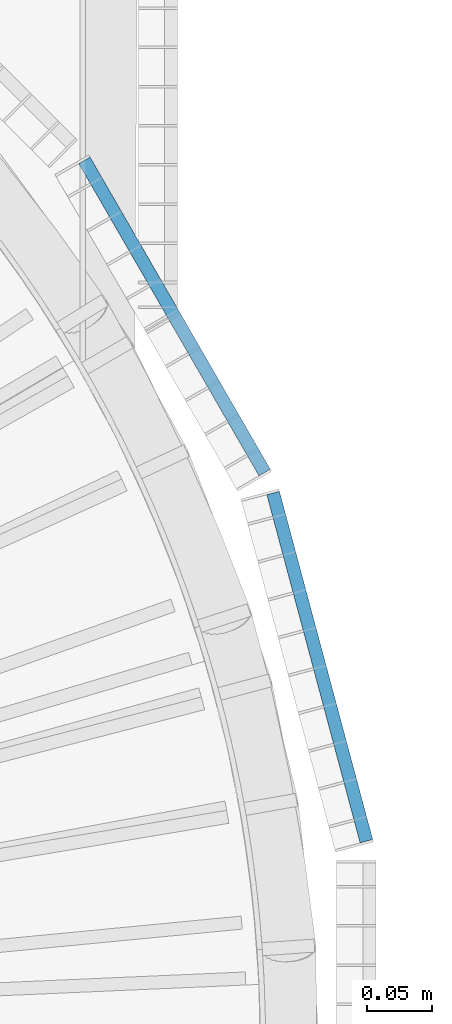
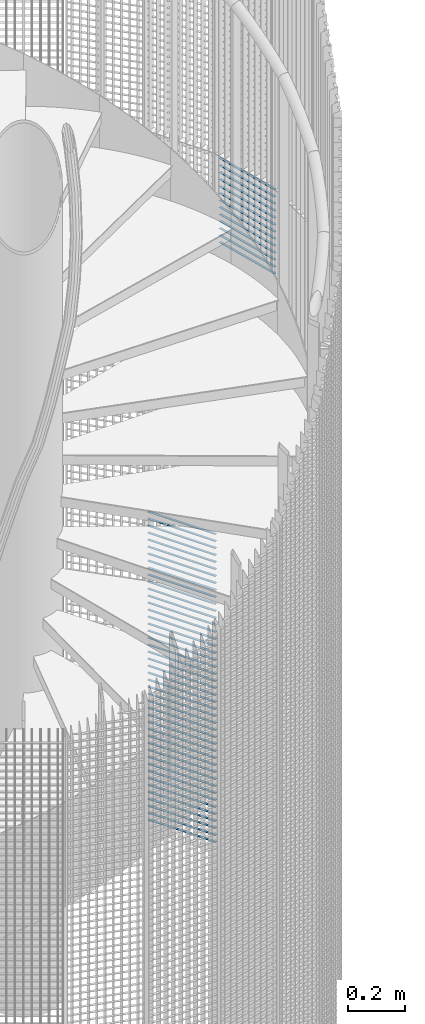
# One storey, part 310 of 1183: 58 beams, 2 elements without a shape of their own.
"""IFC2X3 building model written with IfcOpenShell, lengths in millimetres."""

from ifc_helpers import new_model, si_unit, frame, origin_with_axes, origin_2d_with_axis, place, context, subcontext, project, spatial, rectangle, extrude, material, type_object, element, aggregate, save


model = new_model("IFC2X3")

# Units and contexts
model_context = context("Model", 3, precision=1e-05, world=origin_with_axes())
body_context = subcontext(model_context, "Body", "Model", "MODEL_VIEW")
ifc_project = project(units=[si_unit("LENGTHUNIT", "METRE", prefix="MILLI"), si_unit("AREAUNIT", "SQUARE_METRE"), si_unit("VOLUMEUNIT", "CUBIC_METRE"), si_unit("MASSUNIT", "GRAM", prefix="KILO"), si_unit("TIMEUNIT", "SECOND"), si_unit("PLANEANGLEUNIT", "RADIAN"), si_unit("SOLIDANGLEUNIT", "STERADIAN"), si_unit("THERMODYNAMICTEMPERATUREUNIT", "DEGREE_CELSIUS"), si_unit("LUMINOUSINTENSITYUNIT", "LUMEN")], contexts=[model_context])

# Site, building, storey
site_placement = place(None, origin_with_axes())
site = spatial("IfcSite", under=ifc_project, at=site_placement, Name="Undefined", CompositionType="ELEMENT")
building_placement = place(site_placement, origin_with_axes())
building = spatial("IfcBuilding", under=site, at=building_placement, Name="Undefined", CompositionType="ELEMENT")
storey_placement = place(building_placement, origin_with_axes())
storey = spatial("IfcBuildingStorey", under=building, at=storey_placement, Name="Undefined", CompositionType="ELEMENT", Elevation=0.0)

# Assembly, beams
assembly_1_placement = place(storey_placement, origin_with_axes())
assembly_1 = element("IfcElementAssembly", 1, at=assembly_1_placement, inside=storey, Name="BORDURE", AssemblyPlace="NOTDEFINED", PredefinedType="NOTDEFINED")
ifc_material = material(Name="STEEL/S235JR")
beam_type = type_object("IfcBeamType", Name="PL2*10", PredefinedType="NOTDEFINED")
beam_1_placement = place(assembly_1_placement, frame((1033.29996828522, 437.231955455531, 1350.0), z_axis=(0.866025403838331, 0.499999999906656, 0.0), x_axis=(-0.49999999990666, 0.866025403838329, 0.0)))
beam_1 = element("IfcBeam", 2, at=beam_1_placement, type_object=beam_type, material=ifc_material, Name="ENTRETOISE", context=body_context, shape_type="SweptSolid", body=[
    extrude(rectangle(XDim=2.0, YDim=10.0, at=origin_2d_with_axis()), frame((275.999999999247, 9.09494701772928e-13, 1.53210777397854e-14), z_axis=(-1.0, 0.0, 0.0), x_axis=(0.0, -1.0, 0.0)), (0.0, 0.0, 1.0), 276.0),
])
beam_2_placement = place(assembly_1_placement, frame((1033.29996828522, 437.231955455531, 1320.0), z_axis=(0.866025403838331, 0.499999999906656, 0.0), x_axis=(-0.49999999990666, 0.866025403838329, 0.0)))
beam_2 = element("IfcBeam", 3, at=beam_2_placement, type_object=beam_type, material=ifc_material, Name="ENTRETOISE", context=body_context, shape_type="SweptSolid", body=[
    extrude(rectangle(XDim=2.0, YDim=10.0, at=origin_2d_with_axis()), frame((275.999999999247, 9.09494701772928e-13, 1.53210777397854e-14), z_axis=(-1.0, 0.0, 0.0), x_axis=(0.0, -1.0, 0.0)), (0.0, 0.0, 1.0), 276.0),
])
beam_3_placement = place(assembly_1_placement, frame((1033.29996828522, 437.231955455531, 1290.0), z_axis=(0.866025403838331, 0.499999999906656, 0.0), x_axis=(-0.49999999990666, 0.866025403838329, 0.0)))
beam_3 = element("IfcBeam", 4, at=beam_3_placement, type_object=beam_type, material=ifc_material, Name="ENTRETOISE", context=body_context, shape_type="SweptSolid", body=[
    extrude(rectangle(XDim=2.0, YDim=10.0, at=origin_2d_with_axis()), frame((275.999999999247, 9.09494701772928e-13, 1.53210777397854e-14), z_axis=(-1.0, 0.0, 0.0), x_axis=(0.0, -1.0, 0.0)), (0.0, 0.0, 1.0), 276.0),
])
beam_4_placement = place(assembly_1_placement, frame((1033.29996828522, 437.231955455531, 1260.0), z_axis=(0.866025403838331, 0.499999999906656, 0.0), x_axis=(-0.49999999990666, 0.866025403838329, 0.0)))
beam_4 = element("IfcBeam", 5, at=beam_4_placement, type_object=beam_type, material=ifc_material, Name="ENTRETOISE", context=body_context, shape_type="SweptSolid", body=[
    extrude(rectangle(XDim=2.0, YDim=10.0, at=origin_2d_with_axis()), frame((275.999999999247, 9.09494701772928e-13, 1.53210777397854e-14), z_axis=(-1.0, 0.0, 0.0), x_axis=(0.0, -1.0, 0.0)), (0.0, 0.0, 1.0), 276.0),
])
beam_5_placement = place(assembly_1_placement, frame((1033.29996828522, 437.231955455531, 1230.0), z_axis=(0.866025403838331, 0.499999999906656, 0.0), x_axis=(-0.49999999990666, 0.866025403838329, 0.0)))
beam_5 = element("IfcBeam", 6, at=beam_5_placement, type_object=beam_type, material=ifc_material, Name="ENTRETOISE", context=body_context, shape_type="SweptSolid", body=[
    extrude(rectangle(XDim=2.0, YDim=10.0, at=origin_2d_with_axis()), frame((275.999999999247, 9.09494701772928e-13, 1.53210777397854e-14), z_axis=(-1.0, 0.0, 0.0), x_axis=(0.0, -1.0, 0.0)), (0.0, 0.0, 1.0), 276.0),
])
beam_6_placement = place(assembly_1_placement, frame((1033.29996828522, 437.231955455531, 1200.0), z_axis=(0.866025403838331, 0.499999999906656, 0.0), x_axis=(-0.49999999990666, 0.866025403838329, 0.0)))
beam_6 = element("IfcBeam", 7, at=beam_6_placement, type_object=beam_type, material=ifc_material, Name="ENTRETOISE", context=body_context, shape_type="SweptSolid", body=[
    extrude(rectangle(XDim=2.0, YDim=10.0, at=origin_2d_with_axis()), frame((275.999999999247, 9.09494701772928e-13, 1.53210777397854e-14), z_axis=(-1.0, 0.0, 0.0), x_axis=(0.0, -1.0, 0.0)), (0.0, 0.0, 1.0), 276.0),
])
beam_7_placement = place(assembly_1_placement, frame((1033.29996828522, 437.231955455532, 1170.0), z_axis=(0.866025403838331, 0.499999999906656, 0.0), x_axis=(-0.49999999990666, 0.866025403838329, 0.0)))
beam_7 = element("IfcBeam", 8, at=beam_7_placement, type_object=beam_type, material=ifc_material, Name="ENTRETOISE", context=body_context, shape_type="SweptSolid", body=[
    extrude(rectangle(XDim=2.0, YDim=10.0, at=origin_2d_with_axis()), frame((275.999999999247, 9.09494701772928e-13, 1.53210777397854e-14), z_axis=(-1.0, 0.0, 0.0), x_axis=(0.0, -1.0, 0.0)), (0.0, 0.0, 1.0), 276.0),
])
beam_8_placement = place(assembly_1_placement, frame((1033.29996828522, 437.231955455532, 1140.0), z_axis=(0.866025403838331, 0.499999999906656, 0.0), x_axis=(-0.49999999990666, 0.866025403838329, 0.0)))
beam_8 = element("IfcBeam", 9, at=beam_8_placement, type_object=beam_type, material=ifc_material, Name="ENTRETOISE", context=body_context, shape_type="SweptSolid", body=[
    extrude(rectangle(XDim=2.0, YDim=10.0, at=origin_2d_with_axis()), frame((275.999999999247, 9.09494701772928e-13, 1.53210777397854e-14), z_axis=(-1.0, 0.0, 0.0), x_axis=(0.0, -1.0, 0.0)), (0.0, 0.0, 1.0), 276.0),
])
beam_9_placement = place(assembly_1_placement, frame((1033.29996828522, 437.231955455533, 719.999999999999), z_axis=(0.866025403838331, 0.499999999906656, 0.0), x_axis=(-0.49999999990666, 0.866025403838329, 0.0)))
beam_9 = element("IfcBeam", 10, at=beam_9_placement, type_object=beam_type, material=ifc_material, Name="ENTRETOISE", context=body_context, shape_type="SweptSolid", body=[
    extrude(rectangle(XDim=2.0, YDim=10.0, at=origin_2d_with_axis()), frame((275.999999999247, 9.09494701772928e-13, 1.53210777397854e-14), z_axis=(-1.0, 0.0, 0.0), x_axis=(0.0, -1.0, 0.0)), (0.0, 0.0, 1.0), 276.0),
])
beam_10_placement = place(assembly_1_placement, frame((1033.29996828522, 437.231955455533, 689.999999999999), z_axis=(0.866025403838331, 0.499999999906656, 0.0), x_axis=(-0.49999999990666, 0.866025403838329, 0.0)))
beam_10 = element("IfcBeam", 11, at=beam_10_placement, type_object=beam_type, material=ifc_material, Name="ENTRETOISE", context=body_context, shape_type="SweptSolid", body=[
    extrude(rectangle(XDim=2.0, YDim=10.0, at=origin_2d_with_axis()), frame((275.999999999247, 9.09494701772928e-13, 1.53210777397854e-14), z_axis=(-1.0, 0.0, 0.0), x_axis=(0.0, -1.0, 0.0)), (0.0, 0.0, 1.0), 276.0),
])
beam_11_placement = place(assembly_1_placement, frame((1033.29996828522, 437.231955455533, 749.999999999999), z_axis=(0.866025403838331, 0.499999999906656, 0.0), x_axis=(-0.49999999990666, 0.866025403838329, 0.0)))
beam_11 = element("IfcBeam", 12, at=beam_11_placement, type_object=beam_type, material=ifc_material, Name="ENTRETOISE", context=body_context, shape_type="SweptSolid", body=[
    extrude(rectangle(XDim=2.0, YDim=10.0, at=origin_2d_with_axis()), frame((275.999999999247, 9.09494701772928e-13, 1.53210777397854e-14), z_axis=(-1.0, 0.0, 0.0), x_axis=(0.0, -1.0, 0.0)), (0.0, 0.0, 1.0), 276.0),
])
beam_12_placement = place(assembly_1_placement, frame((1033.29996828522, 437.231955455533, 659.999999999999), z_axis=(0.866025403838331, 0.499999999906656, 0.0), x_axis=(-0.49999999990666, 0.866025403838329, 0.0)))
beam_12 = element("IfcBeam", 13, at=beam_12_placement, type_object=beam_type, material=ifc_material, Name="ENTRETOISE", context=body_context, shape_type="SweptSolid", body=[
    extrude(rectangle(XDim=2.0, YDim=10.0, at=origin_2d_with_axis()), frame((275.999999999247, 9.09494701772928e-13, 1.53210777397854e-14), z_axis=(-1.0, 0.0, 0.0), x_axis=(0.0, -1.0, 0.0)), (0.0, 0.0, 1.0), 276.0),
])
beam_13_placement = place(assembly_1_placement, frame((1033.29996828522, 437.231955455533, 629.999999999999), z_axis=(0.866025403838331, 0.499999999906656, 0.0), x_axis=(-0.49999999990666, 0.866025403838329, 0.0)))
beam_13 = element("IfcBeam", 14, at=beam_13_placement, type_object=beam_type, material=ifc_material, Name="ENTRETOISE", context=body_context, shape_type="SweptSolid", body=[
    extrude(rectangle(XDim=2.0, YDim=10.0, at=origin_2d_with_axis()), frame((275.999999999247, 9.09494701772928e-13, 1.53210777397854e-14), z_axis=(-1.0, 0.0, 0.0), x_axis=(0.0, -1.0, 0.0)), (0.0, 0.0, 1.0), 276.0),
])
beam_14_placement = place(assembly_1_placement, frame((1033.29996828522, 437.231955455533, 779.999999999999), z_axis=(0.866025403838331, 0.499999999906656, 0.0), x_axis=(-0.49999999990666, 0.866025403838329, 0.0)))
beam_14 = element("IfcBeam", 15, at=beam_14_placement, type_object=beam_type, material=ifc_material, Name="ENTRETOISE", context=body_context, shape_type="SweptSolid", body=[
    extrude(rectangle(XDim=2.0, YDim=10.0, at=origin_2d_with_axis()), frame((275.999999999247, 9.09494701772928e-13, 1.53210777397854e-14), z_axis=(-1.0, 0.0, 0.0), x_axis=(0.0, -1.0, 0.0)), (0.0, 0.0, 1.0), 276.0),
])
beam_15_placement = place(assembly_1_placement, frame((1033.29996828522, 437.231955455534, 599.999999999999), z_axis=(0.866025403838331, 0.499999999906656, 0.0), x_axis=(-0.49999999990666, 0.866025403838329, 0.0)))
beam_15 = element("IfcBeam", 16, at=beam_15_placement, type_object=beam_type, material=ifc_material, Name="ENTRETOISE", context=body_context, shape_type="SweptSolid", body=[
    extrude(rectangle(XDim=2.0, YDim=10.0, at=origin_2d_with_axis()), frame((275.999999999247, 9.09494701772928e-13, 1.53210777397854e-14), z_axis=(-1.0, 0.0, 0.0), x_axis=(0.0, -1.0, 0.0)), (0.0, 0.0, 1.0), 276.0),
])
beam_16_placement = place(assembly_1_placement, frame((1033.29996828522, 437.231955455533, 809.999999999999), z_axis=(0.866025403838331, 0.499999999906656, 0.0), x_axis=(-0.49999999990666, 0.866025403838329, 0.0)))
beam_16 = element("IfcBeam", 17, at=beam_16_placement, type_object=beam_type, material=ifc_material, Name="ENTRETOISE", context=body_context, shape_type="SweptSolid", body=[
    extrude(rectangle(XDim=2.0, YDim=10.0, at=origin_2d_with_axis()), frame((275.999999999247, 9.09494701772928e-13, 1.53210777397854e-14), z_axis=(-1.0, 0.0, 0.0), x_axis=(0.0, -1.0, 0.0)), (0.0, 0.0, 1.0), 276.0),
])
beam_17_placement = place(assembly_1_placement, frame((1033.29996828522, 437.231955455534, 569.999999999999), z_axis=(0.866025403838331, 0.499999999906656, 0.0), x_axis=(-0.49999999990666, 0.866025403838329, 0.0)))
beam_17 = element("IfcBeam", 18, at=beam_17_placement, type_object=beam_type, material=ifc_material, Name="ENTRETOISE", context=body_context, shape_type="SweptSolid", body=[
    extrude(rectangle(XDim=2.0, YDim=10.0, at=origin_2d_with_axis()), frame((275.999999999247, 9.09494701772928e-13, 1.53210777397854e-14), z_axis=(-1.0, 0.0, 0.0), x_axis=(0.0, -1.0, 0.0)), (0.0, 0.0, 1.0), 276.0),
])
beam_18_placement = place(assembly_1_placement, frame((1033.29996828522, 437.231955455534, 539.999999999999), z_axis=(0.866025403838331, 0.499999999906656, 0.0), x_axis=(-0.49999999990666, 0.866025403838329, 0.0)))
beam_18 = element("IfcBeam", 19, at=beam_18_placement, type_object=beam_type, material=ifc_material, Name="ENTRETOISE", context=body_context, shape_type="SweptSolid", body=[
    extrude(rectangle(XDim=2.0, YDim=10.0, at=origin_2d_with_axis()), frame((275.999999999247, 9.09494701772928e-13, 1.53210777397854e-14), z_axis=(-1.0, 0.0, 0.0), x_axis=(0.0, -1.0, 0.0)), (0.0, 0.0, 1.0), 276.0),
])
beam_19_placement = place(assembly_1_placement, frame((1033.29996828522, 437.231955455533, 839.999999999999), z_axis=(0.866025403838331, 0.499999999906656, 0.0), x_axis=(-0.49999999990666, 0.866025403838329, 0.0)))
beam_19 = element("IfcBeam", 20, at=beam_19_placement, type_object=beam_type, material=ifc_material, Name="ENTRETOISE", context=body_context, shape_type="SweptSolid", body=[
    extrude(rectangle(XDim=2.0, YDim=10.0, at=origin_2d_with_axis()), frame((275.999999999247, 9.09494701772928e-13, 1.53210777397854e-14), z_axis=(-1.0, 0.0, 0.0), x_axis=(0.0, -1.0, 0.0)), (0.0, 0.0, 1.0), 276.0),
])
beam_20_placement = place(assembly_1_placement, frame((1033.29996828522, 437.231955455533, 509.999999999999), z_axis=(0.866025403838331, 0.499999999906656, 0.0), x_axis=(-0.49999999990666, 0.866025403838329, 0.0)))
beam_20 = element("IfcBeam", 21, at=beam_20_placement, type_object=beam_type, material=ifc_material, Name="ENTRETOISE", context=body_context, shape_type="SweptSolid", body=[
    extrude(rectangle(XDim=2.0, YDim=10.0, at=origin_2d_with_axis()), frame((275.999999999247, 9.09494701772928e-13, 1.53210777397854e-14), z_axis=(-1.0, 0.0, 0.0), x_axis=(0.0, -1.0, 0.0)), (0.0, 0.0, 1.0), 276.0),
])
beam_21_placement = place(assembly_1_placement, frame((1033.29996828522, 437.231955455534, 479.999999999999), z_axis=(0.866025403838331, 0.499999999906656, 0.0), x_axis=(-0.49999999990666, 0.866025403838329, 0.0)))
beam_21 = element("IfcBeam", 22, at=beam_21_placement, type_object=beam_type, material=ifc_material, Name="ENTRETOISE", context=body_context, shape_type="SweptSolid", body=[
    extrude(rectangle(XDim=2.0, YDim=10.0, at=origin_2d_with_axis()), frame((275.999999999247, 9.09494701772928e-13, 1.53210777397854e-14), z_axis=(-1.0, 0.0, 0.0), x_axis=(0.0, -1.0, 0.0)), (0.0, 0.0, 1.0), 276.0),
])
beam_22_placement = place(assembly_1_placement, frame((1033.29996828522, 437.231955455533, 869.999999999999), z_axis=(0.866025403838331, 0.499999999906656, 0.0), x_axis=(-0.49999999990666, 0.866025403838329, 0.0)))
beam_22 = element("IfcBeam", 23, at=beam_22_placement, type_object=beam_type, material=ifc_material, Name="ENTRETOISE", context=body_context, shape_type="SweptSolid", body=[
    extrude(rectangle(XDim=2.0, YDim=10.0, at=origin_2d_with_axis()), frame((275.999999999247, 9.09494701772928e-13, 1.53210777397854e-14), z_axis=(-1.0, 0.0, 0.0), x_axis=(0.0, -1.0, 0.0)), (0.0, 0.0, 1.0), 276.0),
])
beam_23_placement = place(assembly_1_placement, frame((1033.29996828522, 437.231955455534, 449.999999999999), z_axis=(0.866025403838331, 0.499999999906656, 0.0), x_axis=(-0.49999999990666, 0.866025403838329, 0.0)))
beam_23 = element("IfcBeam", 24, at=beam_23_placement, type_object=beam_type, material=ifc_material, Name="ENTRETOISE", context=body_context, shape_type="SweptSolid", body=[
    extrude(rectangle(XDim=2.0, YDim=10.0, at=origin_2d_with_axis()), frame((275.999999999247, 9.09494701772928e-13, 1.53210777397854e-14), z_axis=(-1.0, 0.0, 0.0), x_axis=(0.0, -1.0, 0.0)), (0.0, 0.0, 1.0), 276.0),
])
beam_24_placement = place(assembly_1_placement, frame((1033.29996828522, 437.231955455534, 419.999999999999), z_axis=(0.866025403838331, 0.499999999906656, 0.0), x_axis=(-0.49999999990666, 0.866025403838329, 0.0)))
beam_24 = element("IfcBeam", 25, at=beam_24_placement, type_object=beam_type, material=ifc_material, Name="ENTRETOISE", context=body_context, shape_type="SweptSolid", body=[
    extrude(rectangle(XDim=2.0, YDim=10.0, at=origin_2d_with_axis()), frame((275.999999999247, 9.09494701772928e-13, 1.53210777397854e-14), z_axis=(-1.0, 0.0, 0.0), x_axis=(0.0, -1.0, 0.0)), (0.0, 0.0, 1.0), 276.0),
])
beam_25_placement = place(assembly_1_placement, frame((1033.29996828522, 437.231955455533, 899.999999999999), z_axis=(0.866025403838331, 0.499999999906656, 0.0), x_axis=(-0.49999999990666, 0.866025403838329, 0.0)))
beam_25 = element("IfcBeam", 26, at=beam_25_placement, type_object=beam_type, material=ifc_material, Name="ENTRETOISE", context=body_context, shape_type="SweptSolid", body=[
    extrude(rectangle(XDim=2.0, YDim=10.0, at=origin_2d_with_axis()), frame((275.999999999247, 9.09494701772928e-13, 1.53210777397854e-14), z_axis=(-1.0, 0.0, 0.0), x_axis=(0.0, -1.0, 0.0)), (0.0, 0.0, 1.0), 276.0),
])
beam_26_placement = place(assembly_1_placement, frame((1033.29996828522, 437.231955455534, 389.999999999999), z_axis=(0.866025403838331, 0.499999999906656, 0.0), x_axis=(-0.49999999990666, 0.866025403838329, 0.0)))
beam_26 = element("IfcBeam", 27, at=beam_26_placement, type_object=beam_type, material=ifc_material, Name="ENTRETOISE", context=body_context, shape_type="SweptSolid", body=[
    extrude(rectangle(XDim=2.0, YDim=10.0, at=origin_2d_with_axis()), frame((275.999999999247, 9.09494701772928e-13, 1.53210777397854e-14), z_axis=(-1.0, 0.0, 0.0), x_axis=(0.0, -1.0, 0.0)), (0.0, 0.0, 1.0), 276.0),
])
beam_27_placement = place(assembly_1_placement, frame((1033.29996828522, 437.231955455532, 929.999999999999), z_axis=(0.866025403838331, 0.499999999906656, 0.0), x_axis=(-0.49999999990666, 0.866025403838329, 0.0)))
beam_27 = element("IfcBeam", 28, at=beam_27_placement, type_object=beam_type, material=ifc_material, Name="ENTRETOISE", context=body_context, shape_type="SweptSolid", body=[
    extrude(rectangle(XDim=2.0, YDim=10.0, at=origin_2d_with_axis()), frame((275.999999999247, 9.09494701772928e-13, 1.53210777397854e-14), z_axis=(-1.0, 0.0, 0.0), x_axis=(0.0, -1.0, 0.0)), (0.0, 0.0, 1.0), 276.0),
])
beam_28_placement = place(assembly_1_placement, frame((1033.29996828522, 437.231955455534, 359.999999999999), z_axis=(0.866025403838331, 0.499999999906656, 0.0), x_axis=(-0.49999999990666, 0.866025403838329, 0.0)))
beam_28 = element("IfcBeam", 29, at=beam_28_placement, type_object=beam_type, material=ifc_material, Name="ENTRETOISE", context=body_context, shape_type="SweptSolid", body=[
    extrude(rectangle(XDim=2.0, YDim=10.0, at=origin_2d_with_axis()), frame((275.999999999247, 9.09494701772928e-13, 1.53210777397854e-14), z_axis=(-1.0, 0.0, 0.0), x_axis=(0.0, -1.0, 0.0)), (0.0, 0.0, 1.0), 276.0),
])
beam_29_placement = place(assembly_1_placement, frame((1033.29996828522, 437.231955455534, 329.999999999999), z_axis=(0.866025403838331, 0.499999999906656, 0.0), x_axis=(-0.49999999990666, 0.866025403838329, 0.0)))
beam_29 = element("IfcBeam", 30, at=beam_29_placement, type_object=beam_type, material=ifc_material, Name="ENTRETOISE", context=body_context, shape_type="SweptSolid", body=[
    extrude(rectangle(XDim=2.0, YDim=10.0, at=origin_2d_with_axis()), frame((275.999999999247, 9.09494701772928e-13, 1.53210777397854e-14), z_axis=(-1.0, 0.0, 0.0), x_axis=(0.0, -1.0, 0.0)), (0.0, 0.0, 1.0), 276.0),
])
beam_30_placement = place(assembly_1_placement, frame((1033.29996828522, 437.231955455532, 959.999999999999), z_axis=(0.866025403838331, 0.499999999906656, 0.0), x_axis=(-0.49999999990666, 0.866025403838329, 0.0)))
beam_30 = element("IfcBeam", 31, at=beam_30_placement, type_object=beam_type, material=ifc_material, Name="ENTRETOISE", context=body_context, shape_type="SweptSolid", body=[
    extrude(rectangle(XDim=2.0, YDim=10.0, at=origin_2d_with_axis()), frame((275.999999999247, 9.09494701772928e-13, 1.53210777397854e-14), z_axis=(-1.0, 0.0, 0.0), x_axis=(0.0, -1.0, 0.0)), (0.0, 0.0, 1.0), 276.0),
])
beam_31_placement = place(assembly_1_placement, frame((1033.29996828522, 437.231955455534, 299.999999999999), z_axis=(0.866025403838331, 0.499999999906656, 0.0), x_axis=(-0.49999999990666, 0.866025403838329, 0.0)))
beam_31 = element("IfcBeam", 32, at=beam_31_placement, type_object=beam_type, material=ifc_material, Name="ENTRETOISE", context=body_context, shape_type="SweptSolid", body=[
    extrude(rectangle(XDim=2.0, YDim=10.0, at=origin_2d_with_axis()), frame((275.999999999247, 9.09494701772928e-13, 1.53210777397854e-14), z_axis=(-1.0, 0.0, 0.0), x_axis=(0.0, -1.0, 0.0)), (0.0, 0.0, 1.0), 276.0),
])
beam_32_placement = place(assembly_1_placement, frame((1033.29996828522, 437.231955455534, 269.999999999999), z_axis=(0.866025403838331, 0.499999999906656, 0.0), x_axis=(-0.49999999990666, 0.866025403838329, 0.0)))
beam_32 = element("IfcBeam", 33, at=beam_32_placement, type_object=beam_type, material=ifc_material, Name="ENTRETOISE", context=body_context, shape_type="SweptSolid", body=[
    extrude(rectangle(XDim=2.0, YDim=10.0, at=origin_2d_with_axis()), frame((275.999999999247, 9.09494701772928e-13, 1.53210777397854e-14), z_axis=(-1.0, 0.0, 0.0), x_axis=(0.0, -1.0, 0.0)), (0.0, 0.0, 1.0), 276.0),
])
beam_33_placement = place(assembly_1_placement, frame((1033.29996828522, 437.231955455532, 989.999999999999), z_axis=(0.866025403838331, 0.499999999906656, 0.0), x_axis=(-0.49999999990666, 0.866025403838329, 0.0)))
beam_33 = element("IfcBeam", 34, at=beam_33_placement, type_object=beam_type, material=ifc_material, Name="ENTRETOISE", context=body_context, shape_type="SweptSolid", body=[
    extrude(rectangle(XDim=2.0, YDim=10.0, at=origin_2d_with_axis()), frame((275.999999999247, 9.09494701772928e-13, 1.53210777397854e-14), z_axis=(-1.0, 0.0, 0.0), x_axis=(0.0, -1.0, 0.0)), (0.0, 0.0, 1.0), 276.0),
])
beam_34_placement = place(assembly_1_placement, frame((1033.29996828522, 437.231955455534, 239.999999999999), z_axis=(0.866025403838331, 0.499999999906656, 0.0), x_axis=(-0.49999999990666, 0.866025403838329, 0.0)))
beam_34 = element("IfcBeam", 35, at=beam_34_placement, type_object=beam_type, material=ifc_material, Name="ENTRETOISE", context=body_context, shape_type="SweptSolid", body=[
    extrude(rectangle(XDim=2.0, YDim=10.0, at=origin_2d_with_axis()), frame((275.999999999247, 9.09494701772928e-13, 1.53210777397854e-14), z_axis=(-1.0, 0.0, 0.0), x_axis=(0.0, -1.0, 0.0)), (0.0, 0.0, 1.0), 276.0),
])
beam_35_placement = place(assembly_1_placement, frame((1033.29996828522, 437.231955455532, 1020.0), z_axis=(0.866025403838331, 0.499999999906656, 0.0), x_axis=(-0.49999999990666, 0.866025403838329, 0.0)))
beam_35 = element("IfcBeam", 36, at=beam_35_placement, type_object=beam_type, material=ifc_material, Name="ENTRETOISE", context=body_context, shape_type="SweptSolid", body=[
    extrude(rectangle(XDim=2.0, YDim=10.0, at=origin_2d_with_axis()), frame((275.999999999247, 9.09494701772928e-13, 1.53210777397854e-14), z_axis=(-1.0, 0.0, 0.0), x_axis=(0.0, -1.0, 0.0)), (0.0, 0.0, 1.0), 276.0),
])
beam_36_placement = place(assembly_1_placement, frame((1033.29996828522, 437.231955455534, 209.999999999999), z_axis=(0.866025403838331, 0.499999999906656, 0.0), x_axis=(-0.49999999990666, 0.866025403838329, 0.0)))
beam_36 = element("IfcBeam", 37, at=beam_36_placement, type_object=beam_type, material=ifc_material, Name="ENTRETOISE", context=body_context, shape_type="SweptSolid", body=[
    extrude(rectangle(XDim=2.0, YDim=10.0, at=origin_2d_with_axis()), frame((275.999999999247, 9.09494701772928e-13, 1.53210777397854e-14), z_axis=(-1.0, 0.0, 0.0), x_axis=(0.0, -1.0, 0.0)), (0.0, 0.0, 1.0), 276.0),
])
beam_37_placement = place(assembly_1_placement, frame((1033.29996828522, 437.231955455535, 179.999999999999), z_axis=(0.866025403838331, 0.499999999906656, 0.0), x_axis=(-0.49999999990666, 0.866025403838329, 0.0)))
beam_37 = element("IfcBeam", 38, at=beam_37_placement, type_object=beam_type, material=ifc_material, Name="ENTRETOISE", context=body_context, shape_type="SweptSolid", body=[
    extrude(rectangle(XDim=2.0, YDim=10.0, at=origin_2d_with_axis()), frame((275.999999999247, 9.09494701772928e-13, 1.53210777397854e-14), z_axis=(-1.0, 0.0, 0.0), x_axis=(0.0, -1.0, 0.0)), (0.0, 0.0, 1.0), 276.0),
])
beam_38_placement = place(assembly_1_placement, frame((1033.29996828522, 437.231955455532, 1050.0), z_axis=(0.866025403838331, 0.499999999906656, 0.0), x_axis=(-0.49999999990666, 0.866025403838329, 0.0)))
beam_38 = element("IfcBeam", 39, at=beam_38_placement, type_object=beam_type, material=ifc_material, Name="ENTRETOISE", context=body_context, shape_type="SweptSolid", body=[
    extrude(rectangle(XDim=2.0, YDim=10.0, at=origin_2d_with_axis()), frame((275.999999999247, 9.09494701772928e-13, 1.53210777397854e-14), z_axis=(-1.0, 0.0, 0.0), x_axis=(0.0, -1.0, 0.0)), (0.0, 0.0, 1.0), 276.0),
])
beam_39_placement = place(assembly_1_placement, frame((1033.29996828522, 437.231955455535, 149.999999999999), z_axis=(0.866025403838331, 0.499999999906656, 0.0), x_axis=(-0.49999999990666, 0.866025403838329, 0.0)))
beam_39 = element("IfcBeam", 40, at=beam_39_placement, type_object=beam_type, material=ifc_material, Name="ENTRETOISE", context=body_context, shape_type="SweptSolid", body=[
    extrude(rectangle(XDim=2.0, YDim=10.0, at=origin_2d_with_axis()), frame((275.999999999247, 9.09494701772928e-13, 1.53210777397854e-14), z_axis=(-1.0, 0.0, 0.0), x_axis=(0.0, -1.0, 0.0)), (0.0, 0.0, 1.0), 276.0),
])
beam_40_placement = place(assembly_1_placement, frame((1033.29996828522, 437.231955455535, 119.999999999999), z_axis=(0.866025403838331, 0.499999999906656, 0.0), x_axis=(-0.49999999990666, 0.866025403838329, 0.0)))
beam_40 = element("IfcBeam", 41, at=beam_40_placement, type_object=beam_type, material=ifc_material, Name="ENTRETOISE", context=body_context, shape_type="SweptSolid", body=[
    extrude(rectangle(XDim=2.0, YDim=10.0, at=origin_2d_with_axis()), frame((275.999999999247, 9.09494701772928e-13, 1.53210777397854e-14), z_axis=(-1.0, 0.0, 0.0), x_axis=(0.0, -1.0, 0.0)), (0.0, 0.0, 1.0), 276.0),
])
beam_41_placement = place(assembly_1_placement, frame((1033.29996828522, 437.231955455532, 1080.0), z_axis=(0.866025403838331, 0.499999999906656, 0.0), x_axis=(-0.49999999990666, 0.866025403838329, 0.0)))
beam_41 = element("IfcBeam", 42, at=beam_41_placement, type_object=beam_type, material=ifc_material, Name="ENTRETOISE", context=body_context, shape_type="SweptSolid", body=[
    extrude(rectangle(XDim=2.0, YDim=10.0, at=origin_2d_with_axis()), frame((275.999999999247, 9.09494701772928e-13, 1.53210777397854e-14), z_axis=(-1.0, 0.0, 0.0), x_axis=(0.0, -1.0, 0.0)), (0.0, 0.0, 1.0), 276.0),
])
beam_42_placement = place(assembly_1_placement, frame((1033.29996828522, 437.231955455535, 89.9999999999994), z_axis=(0.866025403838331, 0.499999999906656, 0.0), x_axis=(-0.49999999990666, 0.866025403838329, 0.0)))
beam_42 = element("IfcBeam", 43, at=beam_42_placement, type_object=beam_type, material=ifc_material, Name="ENTRETOISE", context=body_context, shape_type="SweptSolid", body=[
    extrude(rectangle(XDim=2.0, YDim=10.0, at=origin_2d_with_axis()), frame((275.999999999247, 9.09494701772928e-13, 1.53210777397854e-14), z_axis=(-1.0, 0.0, 0.0), x_axis=(0.0, -1.0, 0.0)), (0.0, 0.0, 1.0), 276.0),
])
beam_43_placement = place(assembly_1_placement, frame((1033.29996828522, 437.231955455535, 59.9999999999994), z_axis=(0.866025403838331, 0.499999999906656, 0.0), x_axis=(-0.49999999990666, 0.866025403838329, 0.0)))
beam_43 = element("IfcBeam", 44, at=beam_43_placement, type_object=beam_type, material=ifc_material, Name="ENTRETOISE", context=body_context, shape_type="SweptSolid", body=[
    extrude(rectangle(XDim=2.0, YDim=10.0, at=origin_2d_with_axis()), frame((275.999999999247, 9.09494701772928e-13, 1.53210777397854e-14), z_axis=(-1.0, 0.0, 0.0), x_axis=(0.0, -1.0, 0.0)), (0.0, 0.0, 1.0), 276.0),
])
beam_44_placement = place(assembly_1_placement, frame((1033.29996828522, 437.231955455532, 1110.0), z_axis=(0.866025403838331, 0.499999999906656, 0.0), x_axis=(-0.49999999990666, 0.866025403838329, 0.0)))
beam_44 = element("IfcBeam", 45, at=beam_44_placement, type_object=beam_type, material=ifc_material, Name="ENTRETOISE", context=body_context, shape_type="SweptSolid", body=[
    extrude(rectangle(XDim=2.0, YDim=10.0, at=origin_2d_with_axis()), frame((275.999999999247, 9.09494701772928e-13, 1.53210777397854e-14), z_axis=(-1.0, 0.0, 0.0), x_axis=(0.0, -1.0, 0.0)), (0.0, 0.0, 1.0), 276.0),
])
beam_45_placement = place(assembly_1_placement, frame((1033.29996828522, 437.231955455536, 29.9999999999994), z_axis=(0.866025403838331, 0.499999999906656, 0.0), x_axis=(-0.49999999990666, 0.866025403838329, 0.0)))
beam_45 = element("IfcBeam", 46, at=beam_45_placement, type_object=beam_type, material=ifc_material, Name="ENTRETOISE", context=body_context, shape_type="SweptSolid", body=[
    extrude(rectangle(XDim=2.0, YDim=10.0, at=origin_2d_with_axis()), frame((275.999999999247, 9.09494701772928e-13, 1.53210777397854e-14), z_axis=(-1.0, 0.0, 0.0), x_axis=(0.0, -1.0, 0.0)), (0.0, 0.0, 1.0), 276.0),
])
aggregate(assembly_1, [beam_1, beam_2, beam_3, beam_4, beam_5, beam_6, beam_7, beam_8, beam_9, beam_10, beam_11, beam_12, beam_13, beam_14, beam_15, beam_16, beam_17, beam_18, beam_19, beam_20, beam_21, beam_22, beam_23, beam_24, beam_25, beam_26, beam_27, beam_28, beam_29, beam_30, beam_31, beam_32, beam_33, beam_34, beam_35, beam_36, beam_37, beam_38, beam_39, beam_40, beam_41, beam_42, beam_43, beam_44, beam_45])

assembly_2_placement = place(storey_placement, origin_with_axes())
assembly_2 = element("IfcElementAssembly", 47, at=assembly_2_placement, inside=storey, Name="BORDURE", AssemblyPlace="NOTDEFINED", PredefinedType="NOTDEFINED")
beam_46_placement = place(assembly_2_placement, frame((1111.25508286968, 154.895926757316, 2970.0), z_axis=(0.965925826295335, 0.258819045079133, 0.0), x_axis=(-0.258819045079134, 0.965925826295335, 0.0)))
beam_46 = element("IfcBeam", 48, at=beam_46_placement, type_object=beam_type, material=ifc_material, Name="ENTRETOISE", context=body_context, shape_type="SweptSolid", body=[
    extrude(rectangle(XDim=2.0, YDim=10.0, at=origin_2d_with_axis()), frame((275.999999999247, 9.09494701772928e-13, 1.53210777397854e-14), z_axis=(-1.0, 0.0, 0.0), x_axis=(0.0, -1.0, 0.0)), (0.0, 0.0, 1.0), 276.0),
])
beam_47_placement = place(assembly_2_placement, frame((1111.25508286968, 154.895926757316, 2940.0), z_axis=(0.965925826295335, 0.258819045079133, 0.0), x_axis=(-0.258819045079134, 0.965925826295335, 0.0)))
beam_47 = element("IfcBeam", 49, at=beam_47_placement, type_object=beam_type, material=ifc_material, Name="ENTRETOISE", context=body_context, shape_type="SweptSolid", body=[
    extrude(rectangle(XDim=2.0, YDim=10.0, at=origin_2d_with_axis()), frame((275.999999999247, 9.09494701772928e-13, 1.53210777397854e-14), z_axis=(-1.0, 0.0, 0.0), x_axis=(0.0, -1.0, 0.0)), (0.0, 0.0, 1.0), 276.0),
])
beam_48_placement = place(assembly_2_placement, frame((1111.25508286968, 154.895926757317, 2910.0), z_axis=(0.965925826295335, 0.258819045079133, 0.0), x_axis=(-0.258819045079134, 0.965925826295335, 0.0)))
beam_48 = element("IfcBeam", 50, at=beam_48_placement, type_object=beam_type, material=ifc_material, Name="ENTRETOISE", context=body_context, shape_type="SweptSolid", body=[
    extrude(rectangle(XDim=2.0, YDim=10.0, at=origin_2d_with_axis()), frame((275.999999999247, 9.09494701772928e-13, 1.53210777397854e-14), z_axis=(-1.0, 0.0, 0.0), x_axis=(0.0, -1.0, 0.0)), (0.0, 0.0, 1.0), 276.0),
])
beam_49_placement = place(assembly_2_placement, frame((1111.25508286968, 154.895926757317, 2880.0), z_axis=(0.965925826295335, 0.258819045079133, 0.0), x_axis=(-0.258819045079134, 0.965925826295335, 0.0)))
beam_49 = element("IfcBeam", 51, at=beam_49_placement, type_object=beam_type, material=ifc_material, Name="ENTRETOISE", context=body_context, shape_type="SweptSolid", body=[
    extrude(rectangle(XDim=2.0, YDim=10.0, at=origin_2d_with_axis()), frame((275.999999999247, 9.09494701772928e-13, 1.53210777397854e-14), z_axis=(-1.0, 0.0, 0.0), x_axis=(0.0, -1.0, 0.0)), (0.0, 0.0, 1.0), 276.0),
])
beam_50_placement = place(assembly_2_placement, frame((1111.25508286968, 154.895926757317, 2850.0), z_axis=(0.965925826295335, 0.258819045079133, 0.0), x_axis=(-0.258819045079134, 0.965925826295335, 0.0)))
beam_50 = element("IfcBeam", 52, at=beam_50_placement, type_object=beam_type, material=ifc_material, Name="ENTRETOISE", context=body_context, shape_type="SweptSolid", body=[
    extrude(rectangle(XDim=2.0, YDim=10.0, at=origin_2d_with_axis()), frame((275.999999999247, 9.09494701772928e-13, 1.53210777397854e-14), z_axis=(-1.0, 0.0, 0.0), x_axis=(0.0, -1.0, 0.0)), (0.0, 0.0, 1.0), 276.0),
])
beam_51_placement = place(assembly_2_placement, frame((1111.25508286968, 154.895926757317, 2820.0), z_axis=(0.965925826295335, 0.258819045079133, 0.0), x_axis=(-0.258819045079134, 0.965925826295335, 0.0)))
beam_51 = element("IfcBeam", 53, at=beam_51_placement, type_object=beam_type, material=ifc_material, Name="ENTRETOISE", context=body_context, shape_type="SweptSolid", body=[
    extrude(rectangle(XDim=2.0, YDim=10.0, at=origin_2d_with_axis()), frame((275.999999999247, 9.09494701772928e-13, 1.53210777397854e-14), z_axis=(-1.0, 0.0, 0.0), x_axis=(0.0, -1.0, 0.0)), (0.0, 0.0, 1.0), 276.0),
])
beam_52_placement = place(assembly_2_placement, frame((1111.25508286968, 154.895926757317, 2790.0), z_axis=(0.965925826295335, 0.258819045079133, 0.0), x_axis=(-0.258819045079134, 0.965925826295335, 0.0)))
beam_52 = element("IfcBeam", 54, at=beam_52_placement, type_object=beam_type, material=ifc_material, Name="ENTRETOISE", context=body_context, shape_type="SweptSolid", body=[
    extrude(rectangle(XDim=2.0, YDim=10.0, at=origin_2d_with_axis()), frame((275.999999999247, 9.09494701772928e-13, 1.53210777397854e-14), z_axis=(-1.0, 0.0, 0.0), x_axis=(0.0, -1.0, 0.0)), (0.0, 0.0, 1.0), 276.0),
])
beam_53_placement = place(assembly_2_placement, frame((1111.25508286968, 154.895926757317, 2760.0), z_axis=(0.965925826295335, 0.258819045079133, 0.0), x_axis=(-0.258819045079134, 0.965925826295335, 0.0)))
beam_53 = element("IfcBeam", 55, at=beam_53_placement, type_object=beam_type, material=ifc_material, Name="ENTRETOISE", context=body_context, shape_type="SweptSolid", body=[
    extrude(rectangle(XDim=2.0, YDim=10.0, at=origin_2d_with_axis()), frame((275.999999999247, 9.09494701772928e-13, 1.53210777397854e-14), z_axis=(-1.0, 0.0, 0.0), x_axis=(0.0, -1.0, 0.0)), (0.0, 0.0, 1.0), 276.0),
])
beam_54_placement = place(assembly_2_placement, frame((1111.25508286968, 154.895926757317, 2730.0), z_axis=(0.965925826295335, 0.258819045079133, 0.0), x_axis=(-0.258819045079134, 0.965925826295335, 0.0)))
beam_54 = element("IfcBeam", 56, at=beam_54_placement, type_object=beam_type, material=ifc_material, Name="ENTRETOISE", context=body_context, shape_type="SweptSolid", body=[
    extrude(rectangle(XDim=2.0, YDim=10.0, at=origin_2d_with_axis()), frame((275.999999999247, 9.09494701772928e-13, 1.53210777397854e-14), z_axis=(-1.0, 0.0, 0.0), x_axis=(0.0, -1.0, 0.0)), (0.0, 0.0, 1.0), 276.0),
])
beam_55_placement = place(assembly_2_placement, frame((1111.25508286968, 154.895926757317, 2700.0), z_axis=(0.965925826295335, 0.258819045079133, 0.0), x_axis=(-0.258819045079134, 0.965925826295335, 0.0)))
beam_55 = element("IfcBeam", 57, at=beam_55_placement, type_object=beam_type, material=ifc_material, Name="ENTRETOISE", context=body_context, shape_type="SweptSolid", body=[
    extrude(rectangle(XDim=2.0, YDim=10.0, at=origin_2d_with_axis()), frame((275.999999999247, 9.09494701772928e-13, 1.53210777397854e-14), z_axis=(-1.0, 0.0, 0.0), x_axis=(0.0, -1.0, 0.0)), (0.0, 0.0, 1.0), 276.0),
])
beam_56_placement = place(assembly_2_placement, frame((1111.25508286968, 154.895926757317, 2670.0), z_axis=(0.965925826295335, 0.258819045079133, 0.0), x_axis=(-0.258819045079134, 0.965925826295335, 0.0)))
beam_56 = element("IfcBeam", 58, at=beam_56_placement, type_object=beam_type, material=ifc_material, Name="ENTRETOISE", context=body_context, shape_type="SweptSolid", body=[
    extrude(rectangle(XDim=2.0, YDim=10.0, at=origin_2d_with_axis()), frame((275.999999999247, 9.09494701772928e-13, 1.53210777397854e-14), z_axis=(-1.0, 0.0, 0.0), x_axis=(0.0, -1.0, 0.0)), (0.0, 0.0, 1.0), 276.0),
])
beam_57_placement = place(assembly_2_placement, frame((1111.25508286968, 154.895926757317, 2640.0), z_axis=(0.965925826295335, 0.258819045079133, 0.0), x_axis=(-0.258819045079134, 0.965925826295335, 0.0)))
beam_57 = element("IfcBeam", 59, at=beam_57_placement, type_object=beam_type, material=ifc_material, Name="ENTRETOISE", context=body_context, shape_type="SweptSolid", body=[
    extrude(rectangle(XDim=2.0, YDim=10.0, at=origin_2d_with_axis()), frame((275.999999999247, 9.09494701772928e-13, 1.53210777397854e-14), z_axis=(-1.0, 0.0, 0.0), x_axis=(0.0, -1.0, 0.0)), (0.0, 0.0, 1.0), 276.0),
])
beam_58_placement = place(assembly_2_placement, frame((1111.25508286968, 154.895926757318, 2610.0), z_axis=(0.965925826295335, 0.258819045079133, 0.0), x_axis=(-0.258819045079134, 0.965925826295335, 0.0)))
beam_58 = element("IfcBeam", 60, at=beam_58_placement, type_object=beam_type, material=ifc_material, Name="ENTRETOISE", context=body_context, shape_type="SweptSolid", body=[
    extrude(rectangle(XDim=2.0, YDim=10.0, at=origin_2d_with_axis()), frame((275.999999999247, 9.09494701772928e-13, 1.53210777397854e-14), z_axis=(-1.0, 0.0, 0.0), x_axis=(0.0, -1.0, 0.0)), (0.0, 0.0, 1.0), 276.0),
])
aggregate(assembly_2, [beam_46, beam_47, beam_48, beam_49, beam_50, beam_51, beam_52, beam_53, beam_54, beam_55, beam_56, beam_57, beam_58])

save(model, "model.ifc")
